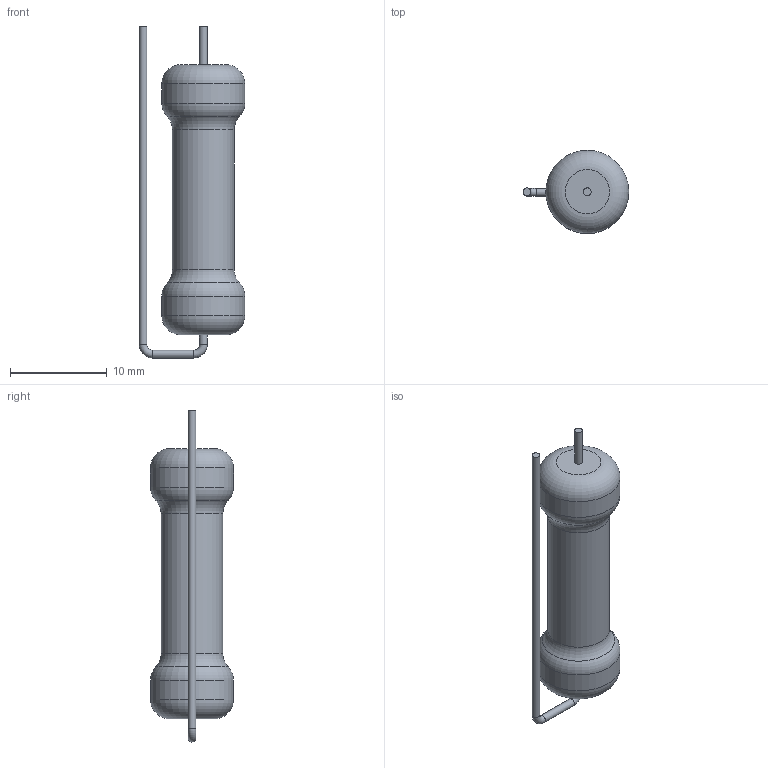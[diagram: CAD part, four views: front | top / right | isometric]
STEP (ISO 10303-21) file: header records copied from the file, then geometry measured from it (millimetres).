
FILE_DESCRIPTION(('STEP AP203'), '1');
FILE_NAME('栖闉罻', '', ('UNSPECIFIED'), ('UNSPECIFIED'), 'ASCON STEP Converter 1.6', 'ASCON Math Kernel', '');
FILE_SCHEMA(('CONFIG_CONTROL_DESIGN'));
Length unit declared in the file: millimetre
Assembly tree (1 placements, depth 2):
  (unnamed)
    (unnamed)
Bounding box: 10.95 x 8.6 x 34.4 mm (x, y, z)
Volume: 1158.4 mm3; surface area: 831 mm2
Topology: 1 solids, 1 shells, 19 faces, 33 edges, 18 vertices
Faces by surface type: torus 8, cylinder 7, plane 4
Full cylindrical faces by diameter (mm): 0.8 x4, 6.4 x1, 8.6 x2
Entity records: 620 total; most frequent: DIRECTION 78, CARTESIAN_POINT 57, AXIS2_PLACEMENT_3D 39, EDGE_LOOP 36, ORIENTED_EDGE 36, FACE_OUTER_BOUND 30, COLOUR_RGB 20, FILL_AREA_STYLE_COLOUR 20
